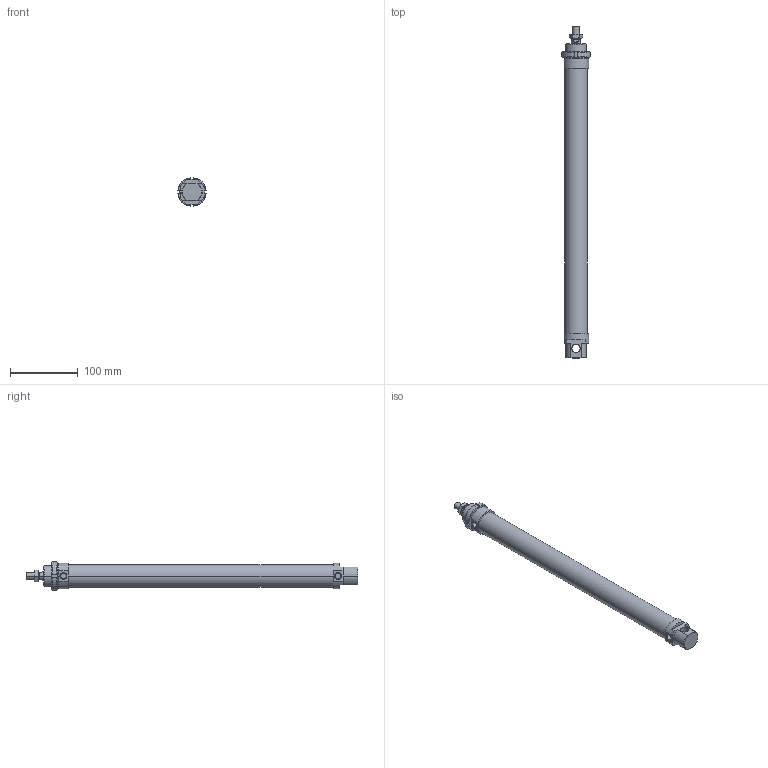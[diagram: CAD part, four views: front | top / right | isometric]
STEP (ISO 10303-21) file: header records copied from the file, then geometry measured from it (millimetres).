
FILE_DESCRIPTION((''),'2;1');
FILE_NAME('I:\DOC-EDP\Lib-3d\1200\CILINDRI\1280\1280_32_0350.stp','2003-04-07T19:05:20',('maffial1'),(''),'Autodesk Inventor (R) 6.0','Autodesk Inventor (R) 6.0','');
FILE_SCHEMA(('AUTOMOTIVE_DESIGN { 1 0 10303 214 1 1 1 1 }'));
Length unit declared in the file: millimetre
Products named in the file (5): 1280_32_0350; S1280_32_350; 1200_32_05; 1200_32_06; C1280_32_350
Assembly tree (4 placements, depth 2):
  1280_32_0350
    S1280_32_350
    1200_32_05
    1200_32_06
    C1280_32_350
Bounding box: 41.7 x 489 x 41.7 mm (x, y, z)
Volume: 412031.8 mm3; surface area: 86831.4 mm2
Topology: 4 solids, 4 shells, 122 faces, 286 edges, 180 vertices
Faces by surface type: plane 44, cone 32, cylinder 26, bspline 20
Entity records: 3831 total; most frequent: CARTESIAN_POINT 997, DIRECTION 582, ORIENTED_EDGE 572, EDGE_CURVE 286, AXIS2_PLACEMENT_3D 229, VERTEX_POINT 180, EDGE_LOOP 136, VECTOR 124
